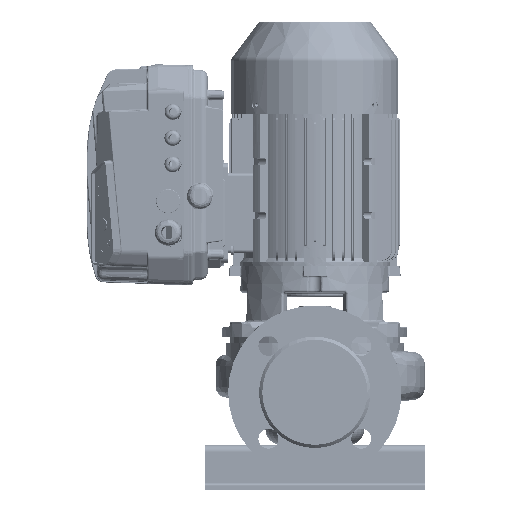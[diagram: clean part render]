
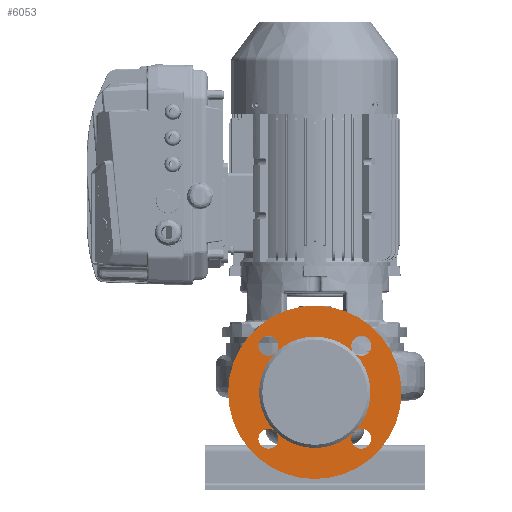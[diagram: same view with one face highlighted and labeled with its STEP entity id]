
A CAD part, front view. The second image highlights one B-rep face of the part: STEP entity #6053.
In plain terms, the highlighted planar face has unit normal (0, -1, 0) as drawn and (0, 1, 0) by its records, which use the part's own axes.
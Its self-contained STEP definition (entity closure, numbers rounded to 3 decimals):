
#6053=ADVANCED_FACE('',(#15201,#15202),#15203,.T.);
#6085=EDGE_CURVE('',#15253,#15254,#15255,.T.);
#6087=EDGE_CURVE('',#15257,#15253,#15258,.T.);
#6089=EDGE_CURVE('',#15260,#15257,#15261,.T.);
#6093=EDGE_CURVE('',#15267,#15268,#15269,.T.);
#6097=EDGE_CURVE('',#15275,#15276,#15277,.T.);
#6101=EDGE_CURVE('',#15283,#15284,#15285,.T.);
#6105=EDGE_CURVE('',#15291,#15292,#15293,.T.);
#6107=EDGE_CURVE('',#15295,#15296,#15297,.T.);
#6247=EDGE_CURVE('',#15296,#15295,#15500,.T.);
#6257=EDGE_CURVE('',#15257,#15291,#15510,.T.);
#6259=EDGE_CURVE('',#15292,#15257,#15512,.T.);
#6261=EDGE_CURVE('',#15253,#15283,#15514,.T.);
#6263=EDGE_CURVE('',#15284,#15253,#15516,.T.);
#6265=EDGE_CURVE('',#15518,#15275,#15519,.T.);
#6267=EDGE_CURVE('',#15276,#15518,#15521,.T.);
#6269=EDGE_CURVE('',#15523,#15267,#15524,.T.);
#6271=EDGE_CURVE('',#15268,#15523,#15526,.T.);
#6273=EDGE_CURVE('',#15254,#15518,#15528,.T.);
#6275=EDGE_CURVE('',#15518,#15523,#15530,.T.);
#6277=EDGE_CURVE('',#15523,#15260,#15532,.T.);
#15201=FACE_OUTER_BOUND('',#31819,.T.);
#15202=FACE_BOUND('',#31820,.T.);
#15203=PLANE('',#31821);
#15253=VERTEX_POINT('',#32882);
#15254=VERTEX_POINT('',#32883);
#15255=CIRCLE('',#32884,53.);
#15257=VERTEX_POINT('',#32887);
#15258=CIRCLE('',#32888,53.);
#15260=VERTEX_POINT('',#32891);
#15261=CIRCLE('',#32892,53.);
#15267=VERTEX_POINT('',#32900);
#15268=VERTEX_POINT('',#32901);
#15269=CIRCLE('',#32902,9.5);
#15275=VERTEX_POINT('',#32910);
#15276=VERTEX_POINT('',#32911);
#15277=CIRCLE('',#32912,9.5);
#15283=VERTEX_POINT('',#32920);
#15284=VERTEX_POINT('',#32921);
#15285=CIRCLE('',#32922,9.5);
#15291=VERTEX_POINT('',#32930);
#15292=VERTEX_POINT('',#32931);
#15293=CIRCLE('',#32932,9.5);
#15295=VERTEX_POINT('',#32935);
#15296=VERTEX_POINT('',#32936);
#15297=CIRCLE('',#32937,82.5);
#15500=CIRCLE('',#33279,82.5);
#15510=CIRCLE('',#33294,9.5);
#15512=CIRCLE('',#33297,9.5);
#15514=CIRCLE('',#33300,9.5);
#15516=CIRCLE('',#33303,9.5);
#15518=VERTEX_POINT('',#33306);
#15519=CIRCLE('',#33307,9.5);
#15521=CIRCLE('',#33310,9.5);
#15523=VERTEX_POINT('',#33313);
#15524=CIRCLE('',#33314,9.5);
#15526=CIRCLE('',#33317,9.5);
#15528=CIRCLE('',#33320,53.);
#15530=CIRCLE('',#33323,53.);
#15532=CIRCLE('',#33326,53.);
#31819=EDGE_LOOP('',(#102213,#102214));
#31820=EDGE_LOOP('',(#102215,#102216,#102217,#102218,#102219,#102220,#102221,#102222,#102223,#102224,#102225,#102226,#102227,#102228,#102229,#102230,#102231,#102232));
#31821=AXIS2_PLACEMENT_3D('',#102233,#102234,#102235);
#32882=CARTESIAN_POINT('',(37.477,137.,21.977));
#32883=CARTESIAN_POINT('',(0.,137.,37.5));
#32884=AXIS2_PLACEMENT_3D('',#102357,#102358,#102359);
#32887=CARTESIAN_POINT('',(37.477,137.,-52.977));
#32888=AXIS2_PLACEMENT_3D('',#102360,#102361,#102362);
#32891=CARTESIAN_POINT('',(0.,137.,-68.5));
#32892=AXIS2_PLACEMENT_3D('',#102363,#102364,#102365);
#32900=CARTESIAN_POINT('',(-49.553,137.,-51.85));
#32901=CARTESIAN_POINT('',(-38.835,137.,-67.538));
#32902=AXIS2_PLACEMENT_3D('',#102369,#102370,#102371);
#32910=CARTESIAN_POINT('',(-36.35,137.,34.053));
#32911=CARTESIAN_POINT('',(-52.038,137.,23.335));
#32912=AXIS2_PLACEMENT_3D('',#102375,#102376,#102377);
#32920=CARTESIAN_POINT('',(49.553,137.,20.85));
#32921=CARTESIAN_POINT('',(38.835,137.,36.538));
#32922=AXIS2_PLACEMENT_3D('',#102381,#102382,#102383);
#32930=CARTESIAN_POINT('',(36.35,137.,-65.053));
#32931=CARTESIAN_POINT('',(52.038,137.,-54.335));
#32932=AXIS2_PLACEMENT_3D('',#102387,#102388,#102389);
#32935=CARTESIAN_POINT('',(0.,137.,-98.));
#32936=CARTESIAN_POINT('',(0.,137.,67.));
#32937=AXIS2_PLACEMENT_3D('',#102390,#102391,#102392);
#33279=AXIS2_PLACEMENT_3D('',#102574,#102575,#102576);
#33294=AXIS2_PLACEMENT_3D('',#102589,#102590,#102591);
#33297=AXIS2_PLACEMENT_3D('',#102592,#102593,#102594);
#33300=AXIS2_PLACEMENT_3D('',#102595,#102596,#102597);
#33303=AXIS2_PLACEMENT_3D('',#102598,#102599,#102600);
#33306=CARTESIAN_POINT('',(-37.477,137.,21.977));
#33307=AXIS2_PLACEMENT_3D('',#102601,#102602,#102603);
#33310=AXIS2_PLACEMENT_3D('',#102604,#102605,#102606);
#33313=CARTESIAN_POINT('',(-37.477,137.,-52.977));
#33314=AXIS2_PLACEMENT_3D('',#102607,#102608,#102609);
#33317=AXIS2_PLACEMENT_3D('',#102610,#102611,#102612);
#33320=AXIS2_PLACEMENT_3D('',#102613,#102614,#102615);
#33323=AXIS2_PLACEMENT_3D('',#102616,#102617,#102618);
#33326=AXIS2_PLACEMENT_3D('',#102619,#102620,#102621);
#102213=ORIENTED_EDGE('',*,*,#6247,.F.);
#102214=ORIENTED_EDGE('',*,*,#6107,.F.);
#102215=ORIENTED_EDGE('',*,*,#6085,.T.);
#102216=ORIENTED_EDGE('',*,*,#6273,.T.);
#102217=ORIENTED_EDGE('',*,*,#6265,.T.);
#102218=ORIENTED_EDGE('',*,*,#6097,.T.);
#102219=ORIENTED_EDGE('',*,*,#6267,.T.);
#102220=ORIENTED_EDGE('',*,*,#6275,.T.);
#102221=ORIENTED_EDGE('',*,*,#6269,.T.);
#102222=ORIENTED_EDGE('',*,*,#6093,.T.);
#102223=ORIENTED_EDGE('',*,*,#6271,.T.);
#102224=ORIENTED_EDGE('',*,*,#6277,.T.);
#102225=ORIENTED_EDGE('',*,*,#6089,.T.);
#102226=ORIENTED_EDGE('',*,*,#6257,.T.);
#102227=ORIENTED_EDGE('',*,*,#6105,.T.);
#102228=ORIENTED_EDGE('',*,*,#6259,.T.);
#102229=ORIENTED_EDGE('',*,*,#6087,.T.);
#102230=ORIENTED_EDGE('',*,*,#6261,.T.);
#102231=ORIENTED_EDGE('',*,*,#6101,.T.);
#102232=ORIENTED_EDGE('',*,*,#6263,.T.);
#102233=CARTESIAN_POINT('',(0.,137.,-83.25));
#102234=DIRECTION('',(0.0,1.0,0.0));
#102235=DIRECTION('',(0.0,0.0,1.0));
#102357=CARTESIAN_POINT('',(0.,137.,-15.5));
#102358=DIRECTION('',(0.0,-1.0,0.0));
#102359=DIRECTION('',(0.,0.0,-1.0));
#102360=CARTESIAN_POINT('',(0.,137.,-15.5));
#102361=DIRECTION('',(0.0,-1.0,0.0));
#102362=DIRECTION('',(0.,0.0,-1.0));
#102363=CARTESIAN_POINT('',(0.,137.,-15.5));
#102364=DIRECTION('',(0.0,-1.0,0.0));
#102365=DIRECTION('',(0.,0.0,-1.0));
#102369=CARTESIAN_POINT('',(-44.194,137.,-59.694));
#102370=DIRECTION('',(0.0,-1.0,0.0));
#102371=DIRECTION('',(-0.564,0.0,0.826));
#102375=CARTESIAN_POINT('',(-44.194,137.,28.694));
#102376=DIRECTION('',(0.0,-1.0,0.0));
#102377=DIRECTION('',(0.826,0.0,0.564));
#102381=CARTESIAN_POINT('',(44.194,137.,28.694));
#102382=DIRECTION('',(0.0,-1.0,0.0));
#102383=DIRECTION('',(0.564,0.0,-0.826));
#102387=CARTESIAN_POINT('',(44.194,137.,-59.694));
#102388=DIRECTION('',(0.0,-1.0,-0.0));
#102389=DIRECTION('',(-0.826,0.0,-0.564));
#102390=CARTESIAN_POINT('',(0.,137.,-15.5));
#102391=DIRECTION('',(0.0,-1.0,0.0));
#102392=DIRECTION('',(0.,0.0,-1.0));
#102574=CARTESIAN_POINT('',(0.,137.,-15.5));
#102575=DIRECTION('',(0.0,-1.0,0.0));
#102576=DIRECTION('',(0.,0.0,-1.0));
#102589=CARTESIAN_POINT('',(44.194,137.,-59.694));
#102590=DIRECTION('',(0.0,-1.0,-0.0));
#102591=DIRECTION('',(-0.826,0.0,-0.564));
#102592=CARTESIAN_POINT('',(44.194,137.,-59.694));
#102593=DIRECTION('',(0.0,-1.0,-0.0));
#102594=DIRECTION('',(-0.826,0.0,-0.564));
#102595=CARTESIAN_POINT('',(44.194,137.,28.694));
#102596=DIRECTION('',(0.0,-1.0,0.0));
#102597=DIRECTION('',(0.564,0.0,-0.826));
#102598=CARTESIAN_POINT('',(44.194,137.,28.694));
#102599=DIRECTION('',(0.0,-1.0,0.0));
#102600=DIRECTION('',(0.564,0.0,-0.826));
#102601=CARTESIAN_POINT('',(-44.194,137.,28.694));
#102602=DIRECTION('',(0.0,-1.0,0.0));
#102603=DIRECTION('',(0.826,0.0,0.564));
#102604=CARTESIAN_POINT('',(-44.194,137.,28.694));
#102605=DIRECTION('',(0.0,-1.0,0.0));
#102606=DIRECTION('',(0.826,0.0,0.564));
#102607=CARTESIAN_POINT('',(-44.194,137.,-59.694));
#102608=DIRECTION('',(0.0,-1.0,0.0));
#102609=DIRECTION('',(-0.564,0.0,0.826));
#102610=CARTESIAN_POINT('',(-44.194,137.,-59.694));
#102611=DIRECTION('',(0.0,-1.0,0.0));
#102612=DIRECTION('',(-0.564,0.0,0.826));
#102613=CARTESIAN_POINT('',(0.,137.,-15.5));
#102614=DIRECTION('',(0.0,-1.0,0.0));
#102615=DIRECTION('',(0.,0.0,-1.0));
#102616=CARTESIAN_POINT('',(0.,137.,-15.5));
#102617=DIRECTION('',(0.0,-1.0,0.0));
#102618=DIRECTION('',(0.,0.0,-1.0));
#102619=CARTESIAN_POINT('',(0.,137.,-15.5));
#102620=DIRECTION('',(0.0,-1.0,0.0));
#102621=DIRECTION('',(0.,0.0,-1.0));
